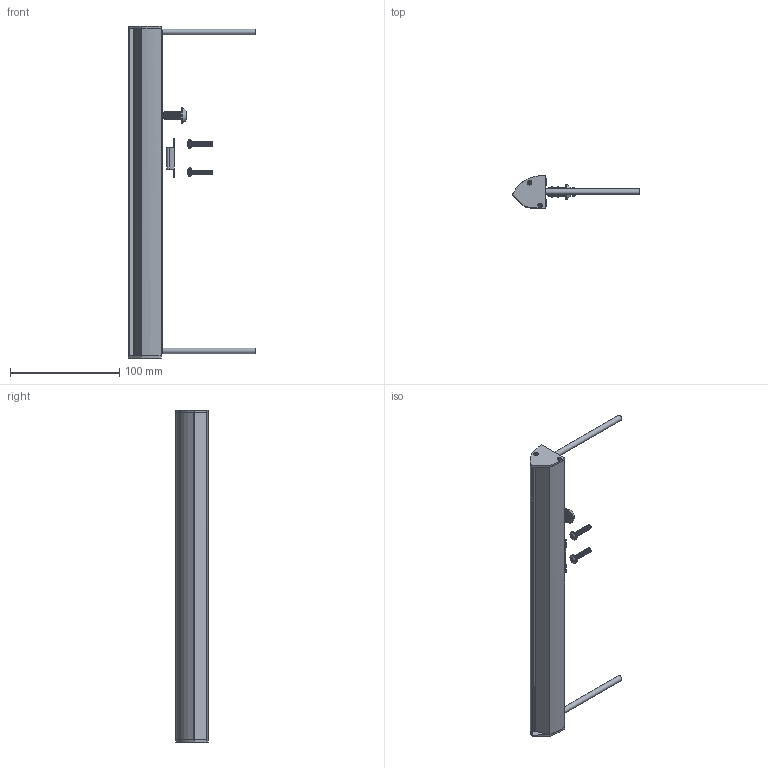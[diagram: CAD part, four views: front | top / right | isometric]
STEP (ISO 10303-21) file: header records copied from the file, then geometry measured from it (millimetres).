
FILE_DESCRIPTION(/* description */ (''),/* implementation_level */ '2;1');
FILE_NAME(/* name */ 'LED-MARTIN_CBV1_LM5100_LM5116.step',/* time_stamp */ '2024-03-05T11:55:07+01:00',/* author */ (''),/* organization */ (''),/* preprocessor_version */ 'ST-DEVELOPER v20',/* originating_system */ 'Autodesk Translation Framework v12.20.1.177',/* authorisation */ '');
FILE_SCHEMA (('AUTOMOTIVE_DESIGN { 1 0 10303 214 3 1 1 }'));
Length unit declared in the file: millimetre
Products named in the file (13): CBV1_Scene_3_Auflage; M2,2x65-; Aluprofil; Verguss; Endkappe_gesenkt (1); Endkappe_gesenkt; 3M_VHB5952F_1,1x6x296mm; 3M_VHB5952F_1,1x6x296mm (1); Output_Cable; Input_Cable; LM_Clip_36mm; Nutenstein_M8; 92095A260_Button Head Hex Drive Screw
Assembly tree (15 placements, depth 2):
  CBV1_Scene_3_Auflage
    M2,2x65-  x4
    Aluprofil
    Verguss
    Endkappe_gesenkt (1)
    Endkappe_gesenkt
    3M_VHB5952F_1,1x6x296mm
    3M_VHB5952F_1,1x6x296mm (1)
    Output_Cable
    Input_Cable
    LM_Clip_36mm
    Nutenstein_M8
    92095A260_Button Head Hex Drive Screw
Bounding box: 116.5 x 29.97 x 304 mm (x, y, z)
Volume: 115719.9 mm3; surface area: 86056.7 mm2
Topology: 17 solids, 17 shells, 656 faces, 1799 edges, 1183 vertices
Faces by surface type: cylinder 283, plane 244, cone 57, bspline 53, torus 16, sphere 3
Full cylindrical faces by diameter (mm): 1.63 x12, 2.2 x12, 2.5 x4, 3.091 x52, 4 x54, 4.5 x2, 5 x2, 6 x2, 6.176 x3, 6.376 x11, 7.8 x3, 8 x11, 14 x1
Entity records: 32916 total; most frequent: CARTESIAN_POINT 19683, ORIENTED_EDGE 2950, DIRECTION 2421, EDGE_CURVE 1475, VERTEX_POINT 970, AXIS2_PLACEMENT_3D 876, LINE 669, VECTOR 669
